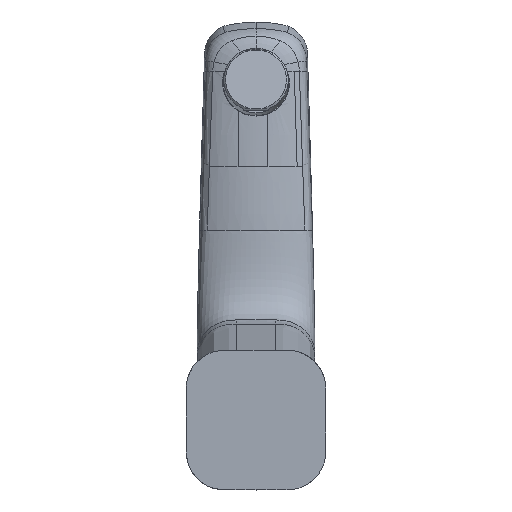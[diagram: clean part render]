
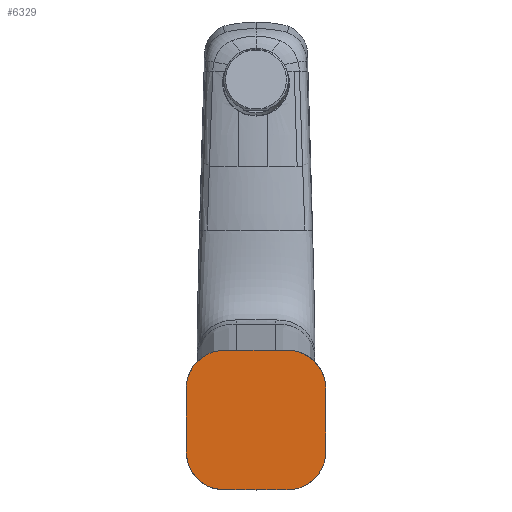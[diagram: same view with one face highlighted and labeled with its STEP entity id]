
A CAD part, front view. The second image highlights one B-rep face of the part: STEP entity #6329.
In plain terms, the highlighted planar face has unit normal (0, -1, 0).
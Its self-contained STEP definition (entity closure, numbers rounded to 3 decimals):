
#378=CARTESIAN_POINT('',(-25.613,3.65,11.082));
#379=CARTESIAN_POINT('',(-25.603,3.65,12.023));
#380=CARTESIAN_POINT('',(-25.592,3.65,13.436));
#381=CARTESIAN_POINT('',(-25.397,3.65,15.31));
#382=CARTESIAN_POINT('',(-25.116,3.65,16.697));
#383=CARTESIAN_POINT('',(-24.681,3.65,18.042));
#384=CARTESIAN_POINT('',(-23.898,3.65,19.758));
#385=CARTESIAN_POINT('',(-22.582,3.65,21.723));
#386=CARTESIAN_POINT('',(-20.597,3.65,23.746));
#387=CARTESIAN_POINT('',(-18.654,3.65,25.096));
#388=CARTESIAN_POINT('',(-16.952,3.65,25.907));
#389=CARTESIAN_POINT('',(-15.615,3.65,26.367));
#390=CARTESIAN_POINT('',(-14.235,3.65,26.675));
#391=CARTESIAN_POINT('',(-12.364,3.65,26.903));
#392=CARTESIAN_POINT('',(-10.009,3.65,26.939));
#393=CARTESIAN_POINT('',(-6.245,3.65,26.968));
#394=CARTESIAN_POINT('',(-2.908,3.65,26.984));
#395=CARTESIAN_POINT('',(-0.513,3.65,26.986));
#396=CARTESIAN_POINT('',(0.,3.65,26.986));
#398=CARTESIAN_POINT('',(0.,3.65,26.986));
#399=CARTESIAN_POINT('',(0.513,3.65,26.986));
#400=CARTESIAN_POINT('',(2.908,3.65,26.984));
#401=CARTESIAN_POINT('',(6.245,3.65,26.968));
#402=CARTESIAN_POINT('',(10.009,3.65,26.939));
#403=CARTESIAN_POINT('',(12.364,3.65,26.903));
#404=CARTESIAN_POINT('',(14.235,3.65,26.675));
#405=CARTESIAN_POINT('',(15.615,3.65,26.367));
#406=CARTESIAN_POINT('',(16.952,3.65,25.907));
#407=CARTESIAN_POINT('',(18.654,3.65,25.096));
#408=CARTESIAN_POINT('',(20.597,3.65,23.746));
#409=CARTESIAN_POINT('',(22.582,3.65,21.723));
#410=CARTESIAN_POINT('',(23.898,3.65,19.758));
#411=CARTESIAN_POINT('',(24.681,3.65,18.042));
#412=CARTESIAN_POINT('',(25.116,3.65,16.697));
#413=CARTESIAN_POINT('',(25.397,3.65,15.31));
#414=CARTESIAN_POINT('',(25.592,3.65,13.436));
#415=CARTESIAN_POINT('',(25.603,3.65,12.023));
#416=CARTESIAN_POINT('',(25.613,3.65,11.082));
#418=CARTESIAN_POINT('',(25.613,3.65,11.082));
#419=CARTESIAN_POINT('',(25.631,3.65,9.2));
#420=CARTESIAN_POINT('',(25.657,3.65,5.434));
#421=CARTESIAN_POINT('',(25.665,3.65,-0.213));
#422=CARTESIAN_POINT('',(25.645,3.65,-4.835));
#423=CARTESIAN_POINT('',(25.621,3.65,-7.659));
#424=CARTESIAN_POINT('',(25.607,3.65,-9.071));
#425=CARTESIAN_POINT('',(25.593,3.65,-10.096));
#426=CARTESIAN_POINT('',(25.525,3.65,-11.507));
#427=CARTESIAN_POINT('',(25.357,3.65,-12.911));
#428=CARTESIAN_POINT('',(25.05,3.65,-14.29));
#429=CARTESIAN_POINT('',(24.587,3.65,-15.627));
#430=CARTESIAN_POINT('',(23.77,3.65,-17.326));
#431=CARTESIAN_POINT('',(22.42,3.65,-19.268));
#432=CARTESIAN_POINT('',(20.402,3.65,-21.259));
#433=CARTESIAN_POINT('',(18.435,3.65,-22.573));
#434=CARTESIAN_POINT('',(16.717,3.65,-23.351));
#435=CARTESIAN_POINT('',(15.371,3.65,-23.783));
#436=CARTESIAN_POINT('',(13.985,3.65,-24.064));
#437=CARTESIAN_POINT('',(12.58,3.65,-24.215));
#438=CARTESIAN_POINT('',(11.404,3.65,-24.264));
#439=CARTESIAN_POINT('',(10.463,3.65,-24.281));
#440=CARTESIAN_POINT('',(9.992,3.65,-24.286));
#441=CARTESIAN_POINT('',(9.757,3.65,-24.288));
#443=CARTESIAN_POINT('',(-0.004,3.65,977.222));
#444=DIRECTION('',(0.,1.,0.));
#445=DIRECTION('',(0.01,0.,-1.));
#446=AXIS2_PLACEMENT_3D('',#443,#444,#445);
#448=CARTESIAN_POINT('',(0.004,3.65,977.222));
#449=DIRECTION('',(0.,1.,0.));
#450=DIRECTION('',(0.,0.,-1.));
#451=AXIS2_PLACEMENT_3D('',#448,#449,#450);
#453=CARTESIAN_POINT('',(-9.757,3.65,-24.288));
#454=CARTESIAN_POINT('',(-9.992,3.65,-24.286));
#455=CARTESIAN_POINT('',(-10.463,3.65,-24.281));
#456=CARTESIAN_POINT('',(-11.404,3.65,-24.264));
#457=CARTESIAN_POINT('',(-12.58,3.65,-24.215));
#458=CARTESIAN_POINT('',(-13.985,3.65,-24.064));
#459=CARTESIAN_POINT('',(-15.371,3.65,-23.783));
#460=CARTESIAN_POINT('',(-16.717,3.65,-23.351));
#461=CARTESIAN_POINT('',(-18.435,3.65,-22.573));
#462=CARTESIAN_POINT('',(-20.402,3.65,-21.259));
#463=CARTESIAN_POINT('',(-22.42,3.65,-19.268));
#464=CARTESIAN_POINT('',(-23.77,3.65,-17.326));
#465=CARTESIAN_POINT('',(-24.587,3.65,-15.627));
#466=CARTESIAN_POINT('',(-25.05,3.65,-14.29));
#467=CARTESIAN_POINT('',(-25.357,3.65,-12.911));
#468=CARTESIAN_POINT('',(-25.525,3.65,-11.507));
#469=CARTESIAN_POINT('',(-25.593,3.65,-10.096));
#470=CARTESIAN_POINT('',(-25.607,3.65,-9.071));
#471=CARTESIAN_POINT('',(-25.621,3.65,-7.659));
#472=CARTESIAN_POINT('',(-25.645,3.65,-4.835));
#473=CARTESIAN_POINT('',(-25.665,3.65,
-0.213));
#474=CARTESIAN_POINT('',(-25.657,3.65,5.434));
#475=CARTESIAN_POINT('',(-25.631,3.65,9.2));
#476=CARTESIAN_POINT('',(-25.613,3.65,11.082));
#5483=CARTESIAN_POINT('',(0.,3.65,
-24.335));
#5484=VERTEX_POINT('',#5483);
#5485=CARTESIAN_POINT('',(9.757,3.65,-24.288));
#5486=VERTEX_POINT('',#5485);
#5487=CARTESIAN_POINT('',(-9.757,3.65,
-24.288));
#5488=VERTEX_POINT('',#5487);
#5489=VERTEX_POINT('',#378);
#5490=VERTEX_POINT('',#396);
#5491=VERTEX_POINT('',#416);
#6313=CARTESIAN_POINT('',(0.,3.65,1.325));
#6314=DIRECTION('',(0.,1.,0.));
#6315=DIRECTION('',(0.,0.,1.));
#6316=AXIS2_PLACEMENT_3D('',#6313,#6314,#6315);
#6317=PLANE('',#6316);
#6319=ORIENTED_EDGE('',*,*,#6318,.T.);
#6321=ORIENTED_EDGE('',*,*,#6320,.T.);
#6323=ORIENTED_EDGE('',*,*,#6322,.T.);
#6324=ORIENTED_EDGE('',*,*,#6293,.T.);
#6325=ORIENTED_EDGE('',*,*,#6308,.T.);
#6326=ORIENTED_EDGE('',*,*,#5801,.T.);
#6327=EDGE_LOOP('',(#6319,#6321,#6323,#6324,#6325,#6326));
#6328=FACE_OUTER_BOUND('',#6327,.F.);
#6329=ADVANCED_FACE('',(#6328),#6317,.F.);
#397=B_SPLINE_CURVE_WITH_KNOTS('',3,(#378,#379,#380,#381,#382,#383,#384,#385,
#386,#387,#388,#389,#390,#391,#392,#393,#394,#395,#396),.UNSPECIFIED.,.F.,.F.,
(4,1,1,1,1,1,1,1,1,1,1,1,1,1,1,1,4),(0.,0.08,0.12,
0.159,0.199,0.239,0.319,
0.399,0.478,0.518,0.558,
0.598,0.638,0.717,0.797,
0.957,1.),.UNSPECIFIED.);
#417=B_SPLINE_CURVE_WITH_KNOTS('',3,(#398,#399,#400,#401,#402,#403,#404,#405,
#406,#407,#408,#409,#410,#411,#412,#413,#414,#415,#416),.UNSPECIFIED.,.F.,.F.,
(4,1,1,1,1,1,1,1,1,1,1,1,1,1,1,1,4),(0.,0.043,0.203,
0.283,0.362,0.402,0.442,
0.482,0.522,0.601,0.681,
0.761,0.801,0.841,0.88,
0.92,1.),.UNSPECIFIED.);
#442=B_SPLINE_CURVE_WITH_KNOTS('',3,(#418,#419,#420,#421,#422,#423,#424,#425,
#426,#427,#428,#429,#430,#431,#432,#433,#434,#435,#436,#437,#438,#439,#440,
#441),.UNSPECIFIED.,.F.,.F.,(4,1,1,1,1,1,1,1,1,1,1,1,1,1,1,1,1,1,1,1,1,4),(0.,
0.125,0.25,0.375,0.432,0.438,0.469,0.5,
0.531,0.563,0.594,0.625,0.688,0.75,0.813,
0.844,0.875,0.906,0.938,0.969,0.984,
1.),.UNSPECIFIED.);
#447=CIRCLE('',#446,1001.558);
#452=CIRCLE('',#451,1001.558);
#477=B_SPLINE_CURVE_WITH_KNOTS('',3,(#453,#454,#455,#456,#457,#458,#459,#460,
#461,#462,#463,#464,#465,#466,#467,#468,#469,#470,#471,#472,#473,#474,#475,
#476),.UNSPECIFIED.,.F.,.F.,(4,1,1,1,1,1,1,1,1,1,1,1,1,1,1,1,1,1,1,1,1,4),(0.,
0.016,0.031,0.063,0.094,
0.125,0.156,0.188,0.25,0.313,0.375,
0.406,0.438,0.469,0.5,0.531,0.563,
0.568,0.625,0.75,0.875,1.),.UNSPECIFIED.);
#5801=EDGE_CURVE('',#5488,#5489,#477,.T.);
#6293=EDGE_CURVE('',#5486,#5484,#447,.T.);
#6308=EDGE_CURVE('',#5484,#5488,#452,.T.);
#6318=EDGE_CURVE('',#5489,#5490,#397,.T.);
#6320=EDGE_CURVE('',#5490,#5491,#417,.T.);
#6322=EDGE_CURVE('',#5491,#5486,#442,.T.);
